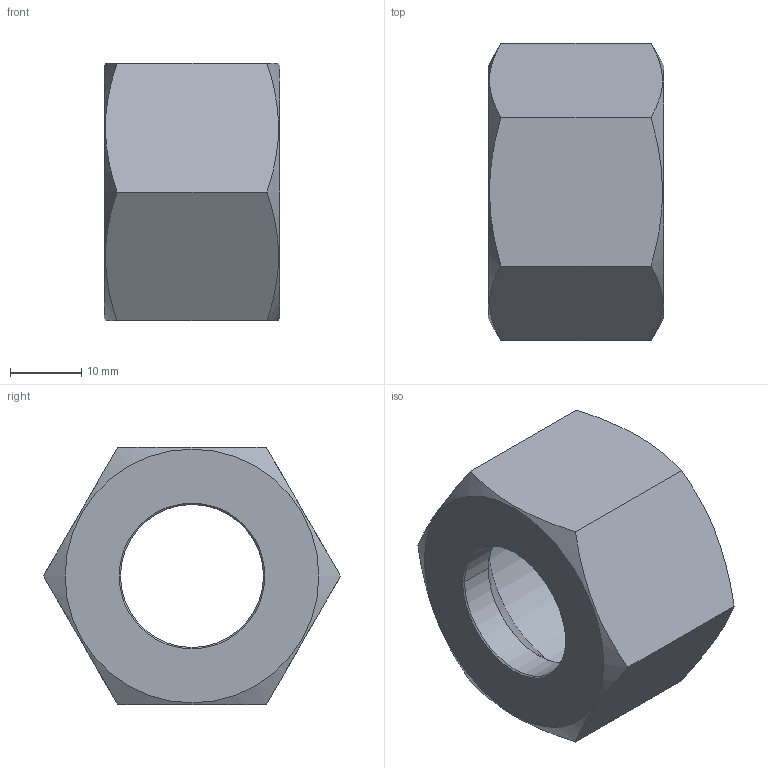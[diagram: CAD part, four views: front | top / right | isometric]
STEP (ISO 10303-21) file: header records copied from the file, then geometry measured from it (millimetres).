
FILE_DESCRIPTION((''),'2;1');
FILE_NAME('100220.stp','2006-03-06T15:10:20',('Dario Falcomer'),('CAST S.p.A.'),'AutoCAD STEP 2000i','AutoCAD 2000i',', , ');
FILE_SCHEMA(('CONFIG_CONTROL_DESIGN'));
Length unit declared in the file: millimetre
Products named in the file (2): 100220.0; CHIAVE_DADI#0
Assembly tree (1 placements, depth 2):
  100220.0
    CHIAVE_DADI#0
Bounding box: 24.5 x 41.57 x 36 mm (x, y, z)
Volume: 14237.5 mm3; surface area: 6263.8 mm2
Topology: 1 solids, 1 shells, 22 faces, 52 edges, 32 vertices
Faces by surface type: cone 10, plane 8, cylinder 4
Entity records: 725 total; most frequent: CARTESIAN_POINT 140, ORIENTED_EDGE 104, DIRECTION 100, EDGE_CURVE 52, AXIS2_PLACEMENT_3D 40, VERTEX_POINT 32, EDGE_LOOP 24, FACE_OUTER_BOUND 22
